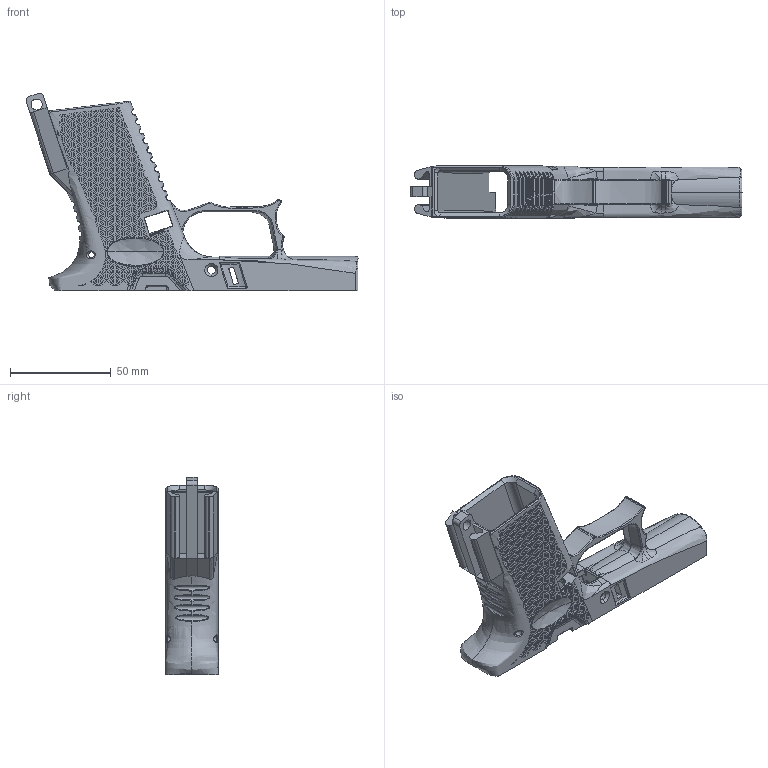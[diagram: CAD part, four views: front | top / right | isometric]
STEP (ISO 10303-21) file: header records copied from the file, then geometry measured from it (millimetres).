
FILE_DESCRIPTION (( 'STEP AP203' ), '1' );
FILE_NAME ('43X Tri-Stipple Stocked FDM.STEP', '2020-12-17T02:19:51', ( '' ), ( '' ), 'SwSTEP 2.0', 'SolidWorks 2016', '' );
FILE_SCHEMA (( 'CONFIG_CONTROL_DESIGN' ));
Length unit declared in the file: millimetre
Products named in the file (1): 43X Tri-Stipple Stocked FDM
Bounding box: 164.98 x 25.89 x 98.17 mm (x, y, z)
Volume: 61235.3 mm3; surface area: 46078.9 mm2
Topology: 1 solids, 1 shells, 6741 faces, 17476 edges, 11482 vertices
Faces by surface type: plane 5803, bspline 473, cylinder 425, torus 26, cone 12, sphere 2
Entity records: 247495 total; most frequent: CARTESIAN_POINT 96729, ORIENTED_EDGE 34864, DIRECTION 24068, EDGE_CURVE 17432, VERTEX_POINT 11480, LINE 10390, VECTOR 10390, EDGE_LOOP 7548
